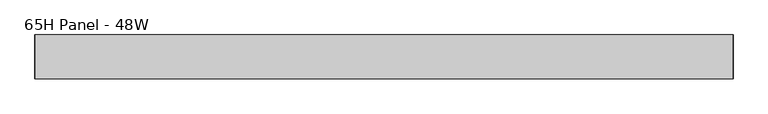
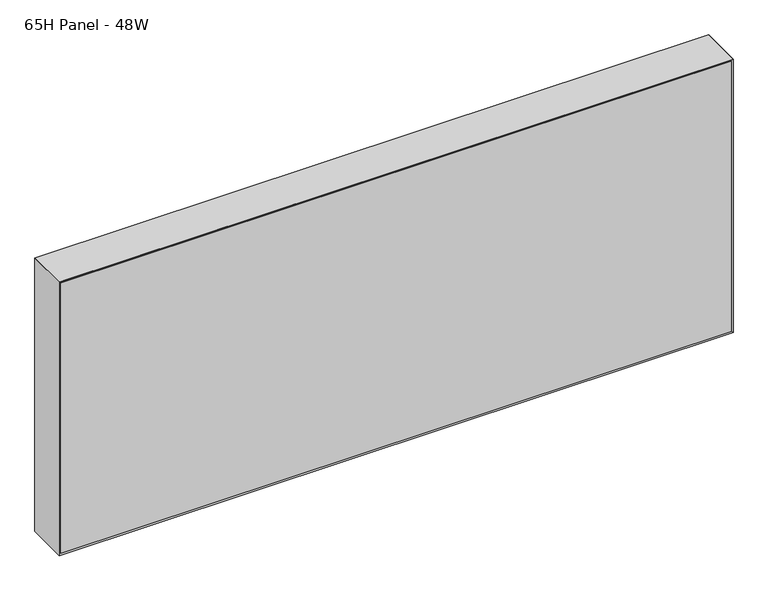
"""IFC4 building model written with IfcOpenShell, lengths in millimetres: furniture geometry, Steelcase - Montage - Frame - 20H - Enhanced Standard - Single Stack-On : 65H Panel - 48W."""

from ifc_helpers import new_model, si_unit, frame, origin, place, context, project, spatial, polyline, outline, extrude, faceted_brep, source, transform, mapped, element, save


def furniture_65h_panel_48w_a92473b1(model_context):
    return source(origin(), model_context, "Body", "SolidModel", [
        faceted_brep([(1209.6750027, 31.7500194, 2174.8749516), (9.5250028, 31.7500194, 2174.8749516), (9.5250028, 31.7500194, 1670.05), (1209.6750027, 31.7500194, 1670.05), (1216.025, 38.1000194, 2181.2249516), (1216.025, 38.1000194, 1663.7), (3.175, 38.1000194, 1663.7), (3.175, 38.1000194, 2181.2249516)], [[[0, 1, 2, 3]], [[4, 5, 6, 7]], [[4, 0, 3, 5]], [[5, 3, 2, 6]], [[6, 2, 1, 7]], [[7, 1, 0, 4]]]),
        faceted_brep([(1209.6750027, -31.7500194, 2174.8749516), (1209.6750027, -31.7500194, 1670.05), (9.5250028, -31.7500194, 1670.05), (9.5250028, -31.7500194, 2174.8749516), (1216.025, -38.1000194, 2181.2249516), (3.175, -38.1000194, 2181.2249516), (3.175, -38.1000194, 1663.7), (1216.025, -38.1000194, 1663.7)], [[[0, 1, 2, 3]], [[4, 5, 6, 7]], [[4, 7, 1, 0]], [[7, 6, 2, 1]], [[6, 5, 3, 2]], [[5, 4, 0, 3]]]),
        faceted_brep([(1219.2, -38.1000015, 1660.525), (1219.2, 38.1000015, 1660.525), (1219.2, 38.1000015, 2184.3999516), (1219.2, -38.1000106, 2184.3999515), (0.0, 38.1000015, 1660.525), (0.0, -38.1000015, 1660.525), (0.0, -38.1000015, 2184.3999516), (0.0, 38.1000015, 2184.3999516), (6.3500484, 31.749953, 1666.8750484), (1212.8499879, 31.749953, 1666.8750484), (6.35, -31.749953, 1666.8750484), (1212.8499879, -31.749953, 1666.8750484), (6.3500165, 31.749985, 2178.049935), (6.3500006, -31.7500009, 2178.0499031), (1212.8499879, -31.7499979, 2178.0499031), (1212.8499879, 31.7499889, 2178.0499394)], [[[0, 1, 2, 3]], [[4, 5, 6, 7]], [[1, 0, 5, 4]], [[1, 4, 8, 9]], [[9, 8, 10, 11]], [[5, 0, 11, 10]], [[4, 7, 12, 8]], [[6, 5, 10, 13]], [[10, 8, 12, 13]], [[9, 11, 14, 15]], [[0, 3, 14, 11]], [[2, 1, 9, 15]], [[3, 2, 15, 14]], [[7, 6, 13, 12]]]),
        faceted_brep([(1219.2, -38.1000015, 2184.3999516), (0.0, -38.1000015, 2184.3999516), (6.3500484, -31.749953, 2178.0499031), (1212.8499516, -31.749953, 2178.0499031), (6.3500484, 31.749953, 2178.0499031), (1212.8499516, 31.749953, 2178.0499031), (0.0, 38.1000015, 2184.3999516), (1219.2, 38.1000015, 2184.3999516)], [[[0, 1, 2, 3]], [[3, 2, 4, 5]], [[6, 7, 5, 4]], [[1, 0, 7, 6]], [[2, 1, 6, 4]], [[0, 3, 5, 7]]]),
        extrude(outline(polyline([(1212.8499879, 31.7500016), (1212.8499879, -31.7499985), (6.35, -31.7499985), (6.35, 31.7500016), (1212.8499879, 31.7500016)])), frame((0.0, 0.0, 1666.8702145), z_axis=(0.0, 0.0, 1.0), x_axis=(1.0, 0.0, 0.0)), (0.0, 0.0, 1.0), 511.1796886),
    ])


if __name__ == "__main__":
    model = new_model("IFC4")
    model_context = context("Model", 3, world=origin())
    ifc_project = project(units=[si_unit("LENGTHUNIT", "METRE", prefix="MILLI")], contexts=[model_context])
    site = spatial("IfcSite", under=ifc_project)
    building = spatial("IfcBuilding", under=site)
    placement = place(None, origin())
    furniture_65h_panel_48w_shape = furniture_65h_panel_48w_a92473b1(model_context)
    element("IfcFurniture", 1, ObjectType="Steelcase - Montage - Frame - 20H - Enhanced Standard - Single Stack-On : 65H Panel - 48W", at=placement, inside=building, context=model_context, shape_type="MappedRepresentation", body=[
        mapped(furniture_65h_panel_48w_shape, transform((0.0, 0.0, 0.0), x_axis=(1.0, 0.0, 0.0), y_axis=(0.0, 1.0, 0.0), z_axis=(0.0, 0.0, 1.0))),
    ])
    save(model, "model.ifc")
